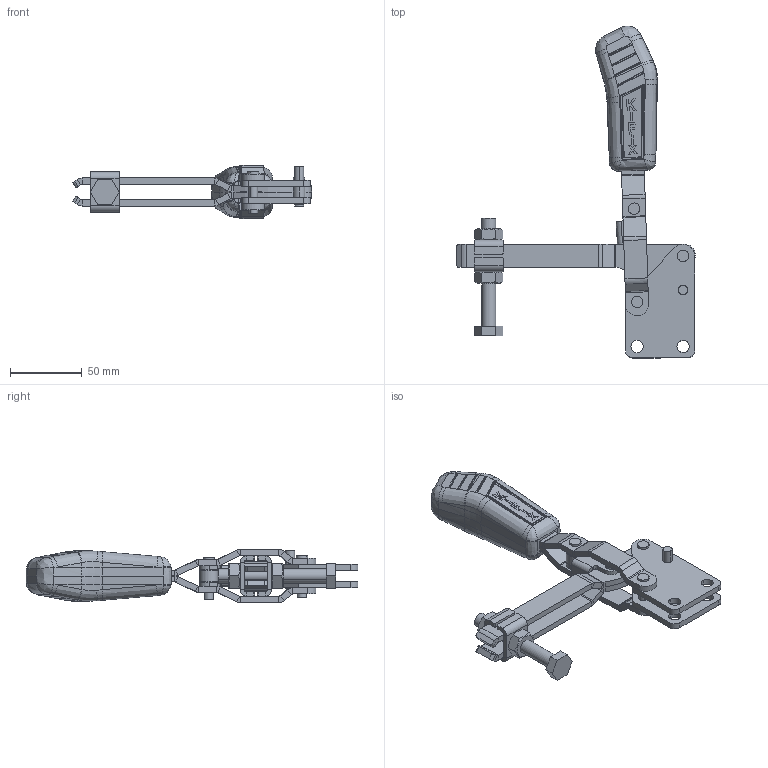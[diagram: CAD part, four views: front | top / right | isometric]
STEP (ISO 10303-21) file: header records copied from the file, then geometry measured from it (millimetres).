
FILE_DESCRIPTION (( 'STEP AP203' ), '1' );
FILE_NAME ('KF-011 RBL.STEP', '2014-07-28T13:07:18', ( 'Ricardo' ), ( '' ), 'SwSTEP 2.0', 'SolidWorks 2013', '' );
FILE_SCHEMA (( 'CONFIG_CONTROL_DESIGN' ));
Length unit declared in the file: millimetre
Products named in the file (14): 12.50004; 03.14004_Esquerda; 11.50003; 01.10013; 14.10002; 04.10002; 02.11007; 07.60002; KF-011 RBL; 04.20002; 06.50007; 06.50008; 05.20005; 03.14004_Direita
Assembly tree (19 placements, depth 2):
  KF-011 RBL
    03.14004_Direita
    03.14004_Esquerda
    01.10013  x2
    04.10002
    07.60002
    04.20002
    06.50007  x2
    06.50008  x2
    05.20005
    12.50004
    11.50003  x2
    14.10002  x2
    02.11007  x2
Bounding box: 166.22 x 230.79 x 37 mm (x, y, z)
Volume: 177071.4 mm3; surface area: 76101.3 mm2
Topology: 19 solids, 19 shells, 832 faces, 2000 edges, 1217 vertices
Faces by surface type: plane 360, cylinder 228, bspline 157, sphere 52, cone 32, torus 3
Entity records: 25556 total; most frequent: CARTESIAN_POINT 9200, ORIENTED_EDGE 3292, DIRECTION 2701, EDGE_CURVE 1646, VERTEX_POINT 1015, AXIS2_PLACEMENT_3D 1009, EDGE_LOOP 749, ADVANCED_FACE 684
